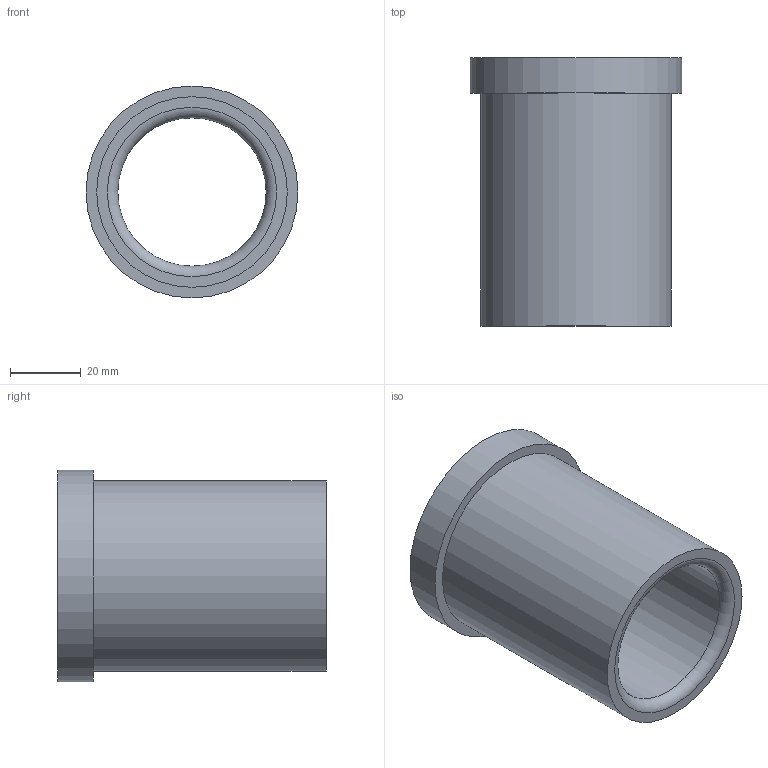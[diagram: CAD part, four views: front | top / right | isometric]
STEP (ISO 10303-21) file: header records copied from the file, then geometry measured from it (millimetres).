
FILE_DESCRIPTION(/* description */ ('STEP AP214'),/* implementation_level */ '2;1');
FILE_NAME(/* name */ '03_12_17956',/* time_stamp */ '2023-06-15T11:35:45+02:00',/* author */ ('License CC BY-ND 4.0'),/* organization */ ('CADENAS'),/* preprocessor_version */ 'ST-DEVELOPER v19.3',/* originating_system */ 'PARTsolutions',/* authorisation */ ' ');
FILE_SCHEMA (('AUTOMOTIVE_DESIGN {1 0 10303 214 3 1 1}'));
Length unit declared in the file: millimetre
Products named in the file (1): VA_Bushing_17956
Bounding box: 60 x 76 x 60 mm (x, y, z)
Volume: 72999.7 mm3; surface area: 25688 mm2
Topology: 1 solids, 1 shells, 10 faces, 16 edges, 10 vertices
Faces by surface type: cylinder 4, plane 4, torus 2
Full cylindrical faces by diameter (mm): 42 x1, 42.6 x1, 54 x1, 60 x1
Entity records: 302 total; most frequent: DIRECTION 42, CARTESIAN_POINT 31, AXIS2_PLACEMENT_3D 21, ORIENTED_EDGE 20, EDGE_LOOP 20, FACE_BOUND 20, EDGE_CURVE 10, VERTEX_POINT 10
